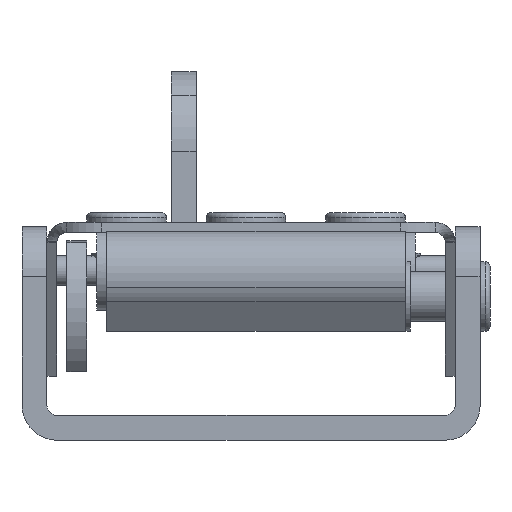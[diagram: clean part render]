
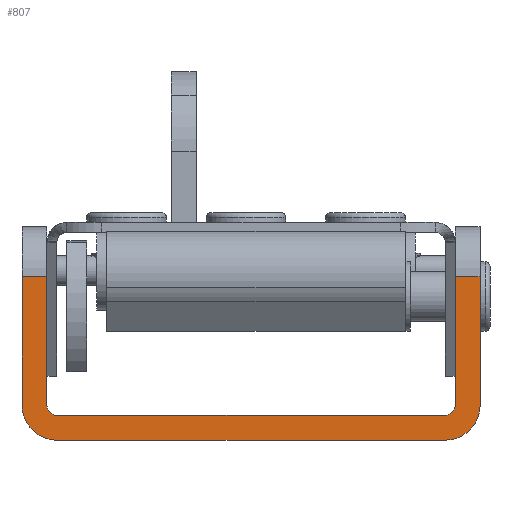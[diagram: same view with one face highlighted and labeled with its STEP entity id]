
A CAD part, front view. The second image highlights one B-rep face of the part: STEP entity #807.
In plain terms, the highlighted planar face has unit normal (0, -1, 0) as drawn and (0, 1, 0) by its records, which use the part's own axes.
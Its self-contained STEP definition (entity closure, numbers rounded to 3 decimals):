
#151=CARTESIAN_POINT('',(-19.5,19.819,15.179));
#152=VERTEX_POINT('',#151);
#160=CARTESIAN_POINT('',(-22.,19.819,15.179));
#161=VERTEX_POINT('',#160);
#162=CARTESIAN_POINT('',(-22.,19.819,15.179));
#163=DIRECTION('',(1.0,0.0,0.0));
#164=VECTOR('',#163,2.5);
#165=LINE('',#162,#164);
#166=EDGE_CURVE('',#161,#152,#165,.T.);
#193=CARTESIAN_POINT('',(24.0,19.819,15.179));
#194=VERTEX_POINT('',#193);
#202=CARTESIAN_POINT('',(21.5,19.819,15.179));
#203=VERTEX_POINT('',#202);
#204=CARTESIAN_POINT('',(24.0,19.819,15.179));
#205=DIRECTION('',(-1.0,0.0,0.0));
#206=VECTOR('',#205,2.5);
#207=LINE('',#204,#206);
#208=EDGE_CURVE('',#194,#203,#207,.T.);
#225=CARTESIAN_POINT('',(21.168,19.819,-1.186));
#226=VERTEX_POINT('',#225);
#235=CARTESIAN_POINT('',(24.,19.819,2.25));
#236=VERTEX_POINT('',#235);
#237=CARTESIAN_POINT('',(20.5,19.819,2.25));
#238=DIRECTION('',(0.0,-1.0,0.0));
#239=DIRECTION('',(0.0,0.0,-1.0));
#240=AXIS2_PLACEMENT_3D('',#237,#238,#239);
#241=CIRCLE('',#240,3.5);
#242=EDGE_CURVE('',#226,#236,#241,.T.);
#269=CARTESIAN_POINT('',(20.691,19.819,1.268));
#270=VERTEX_POINT('',#269);
#286=CARTESIAN_POINT('',(21.5,19.819,2.25));
#287=VERTEX_POINT('',#286);
#294=CARTESIAN_POINT('',(20.5,19.819,2.25));
#295=DIRECTION('',(0.0,-1.0,0.0));
#296=DIRECTION('',(0.0,0.0,-1.0));
#297=AXIS2_PLACEMENT_3D('',#294,#295,#296);
#298=CIRCLE('',#297,1.0);
#299=EDGE_CURVE('',#270,#287,#298,.T.);
#309=CARTESIAN_POINT('',(-21.936,19.819,1.582));
#310=VERTEX_POINT('',#309);
#319=CARTESIAN_POINT('',(-18.5,19.819,-1.25));
#320=VERTEX_POINT('',#319);
#321=CARTESIAN_POINT('',(-18.5,19.819,2.25));
#322=DIRECTION('',(0.0,-1.0,0.0));
#323=DIRECTION('',(-1.0,0.0,0.0));
#324=AXIS2_PLACEMENT_3D('',#321,#322,#323);
#325=CIRCLE('',#324,3.5);
#326=EDGE_CURVE('',#310,#320,#325,.T.);
#353=CARTESIAN_POINT('',(-19.482,19.819,2.059));
#354=VERTEX_POINT('',#353);
#370=CARTESIAN_POINT('',(-18.5,19.819,1.25));
#371=VERTEX_POINT('',#370);
#378=CARTESIAN_POINT('',(-18.5,19.819,2.25));
#379=DIRECTION('',(0.0,-1.0,0.0));
#380=DIRECTION('',(-1.0,0.0,0.0));
#381=AXIS2_PLACEMENT_3D('',#378,#379,#380);
#382=CIRCLE('',#381,1.0);
#383=EDGE_CURVE('',#354,#371,#382,.T.);
#658=CARTESIAN_POINT('',(-19.5,19.819,2.25));
#659=VERTEX_POINT('',#658);
#660=CARTESIAN_POINT('',(-18.5,19.819,2.25));
#661=DIRECTION('',(0.0,-1.0,0.0));
#662=DIRECTION('',(-1.0,0.0,0.0));
#663=AXIS2_PLACEMENT_3D('',#660,#661,#662);
#664=CIRCLE('',#663,1.0);
#665=EDGE_CURVE('',#659,#354,#664,.T.);
#692=CARTESIAN_POINT('',(-22.,19.819,2.25));
#693=VERTEX_POINT('',#692);
#724=CARTESIAN_POINT('',(-22.,19.819,15.179));
#725=DIRECTION('',(0.0,0.0,-1.0));
#726=VECTOR('',#725,12.929);
#727=LINE('',#724,#726);
#728=EDGE_CURVE('',#161,#693,#727,.T.);
#737=CARTESIAN_POINT('',(-33.0,19.819,-1.25));
#738=DIRECTION('',(0.0,1.0,0.0));
#739=DIRECTION('',(0.0,0.0,1.0));
#740=AXIS2_PLACEMENT_3D('',#737,#738,#739);
#741=PLANE('',#740);
#742=CARTESIAN_POINT('',(20.5,19.819,1.25));
#743=VERTEX_POINT('',#742);
#744=CARTESIAN_POINT('',(-18.5,19.819,1.25));
#745=DIRECTION('',(1.0,0.0,0.0));
#746=VECTOR('',#745,39.);
#747=LINE('',#744,#746);
#748=EDGE_CURVE('',#371,#743,#747,.T.);
#749=ORIENTED_EDGE('',*,*,#748,.T.);
#750=CARTESIAN_POINT('',(20.5,19.819,2.25));
#751=DIRECTION('',(0.0,-1.0,0.0));
#752=DIRECTION('',(0.0,0.0,-1.0));
#753=AXIS2_PLACEMENT_3D('',#750,#751,#752);
#754=CIRCLE('',#753,1.0);
#755=EDGE_CURVE('',#743,#270,#754,.T.);
#756=ORIENTED_EDGE('',*,*,#755,.T.);
#757=ORIENTED_EDGE('',*,*,#299,.T.);
#758=CARTESIAN_POINT('',(21.5,19.819,2.25));
#759=DIRECTION('',(0.0,0.0,1.0));
#760=VECTOR('',#759,12.929);
#761=LINE('',#758,#760);
#762=EDGE_CURVE('',#287,#203,#761,.T.);
#763=ORIENTED_EDGE('',*,*,#762,.T.);
#764=ORIENTED_EDGE('',*,*,#208,.F.);
#765=CARTESIAN_POINT('',(24.,19.819,2.25));
#766=DIRECTION('',(0.0,0.0,1.0));
#767=VECTOR('',#766,12.929);
#768=LINE('',#765,#767);
#769=EDGE_CURVE('',#236,#194,#768,.T.);
#770=ORIENTED_EDGE('',*,*,#769,.F.);
#771=ORIENTED_EDGE('',*,*,#242,.F.);
#772=CARTESIAN_POINT('',(20.5,19.819,-1.25));
#773=VERTEX_POINT('',#772);
#774=CARTESIAN_POINT('',(20.5,19.819,2.25));
#775=DIRECTION('',(0.0,-1.0,0.0));
#776=DIRECTION('',(0.0,0.0,-1.0));
#777=AXIS2_PLACEMENT_3D('',#774,#775,#776);
#778=CIRCLE('',#777,3.5);
#779=EDGE_CURVE('',#773,#226,#778,.T.);
#780=ORIENTED_EDGE('',*,*,#779,.F.);
#781=CARTESIAN_POINT('',(-18.5,19.819,-1.25));
#782=DIRECTION('',(1.0,0.0,0.0));
#783=VECTOR('',#782,39.);
#784=LINE('',#781,#783);
#785=EDGE_CURVE('',#320,#773,#784,.T.);
#786=ORIENTED_EDGE('',*,*,#785,.F.);
#787=ORIENTED_EDGE('',*,*,#326,.F.);
#788=CARTESIAN_POINT('',(-18.5,19.819,2.25));
#789=DIRECTION('',(0.0,-1.0,0.0));
#790=DIRECTION('',(-1.0,0.0,0.0));
#791=AXIS2_PLACEMENT_3D('',#788,#789,#790);
#792=CIRCLE('',#791,3.5);
#793=EDGE_CURVE('',#693,#310,#792,.T.);
#794=ORIENTED_EDGE('',*,*,#793,.F.);
#795=ORIENTED_EDGE('',*,*,#728,.F.);
#796=ORIENTED_EDGE('',*,*,#166,.T.);
#797=CARTESIAN_POINT('',(-19.5,19.819,15.179));
#798=DIRECTION('',(0.0,0.0,-1.0));
#799=VECTOR('',#798,12.929);
#800=LINE('',#797,#799);
#801=EDGE_CURVE('',#152,#659,#800,.T.);
#802=ORIENTED_EDGE('',*,*,#801,.T.);
#803=ORIENTED_EDGE('',*,*,#665,.T.);
#804=ORIENTED_EDGE('',*,*,#383,.T.);
#805=EDGE_LOOP('',(#749,#756,#757,#763,#764,#770,#771,#780,#786,#787,#794,#795,#796,#802,#803,#804));
#806=FACE_OUTER_BOUND('',#805,.T.);
#807=ADVANCED_FACE('',(#806),#741,.T.);
